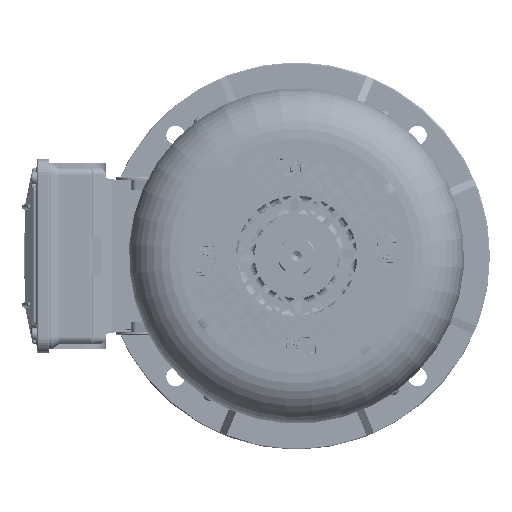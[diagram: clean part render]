
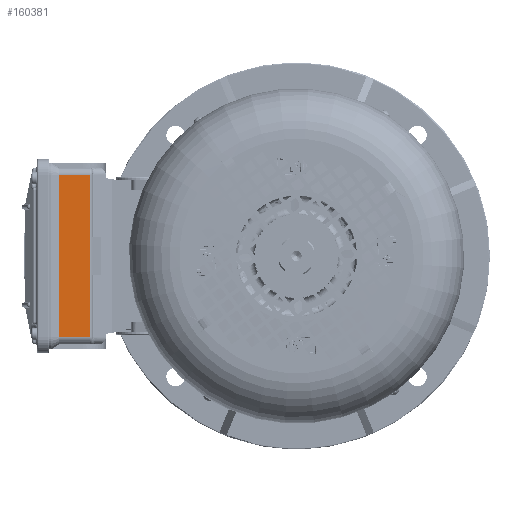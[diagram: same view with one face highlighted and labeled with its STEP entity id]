
A CAD part, left-side view. The second image highlights one B-rep face of the part: STEP entity #160381.
In plain terms, the highlighted planar face has unit normal (-1, 0, 0) as drawn and (1, 0, 0) by its records, which use the part's own axes.
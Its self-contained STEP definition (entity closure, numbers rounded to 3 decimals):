
#573 = DIRECTION ( 'NONE',  ( 0., 1., 0. ) ) ;
#10339 = VECTOR ( 'NONE', #173887, 1000. ) ;
#12919 = VECTOR ( 'NONE', #573, 1000. ) ;
#15277 = VERTEX_POINT ( 'NONE', #151343 ) ;
#17574 = LINE ( 'NONE', #147212, #12919 ) ;
#17821 = CARTESIAN_POINT ( 'NONE',  ( 92.5, -282.704, 62.5 ) ) ;
#24136 = PLANE ( 'NONE',  #31468 ) ;
#31468 = AXIS2_PLACEMENT_3D ( 'NONE', #126946, #54360, #157181 ) ;
#44532 = EDGE_CURVE ( 'NONE', #15277, #113879, #107166, .T. ) ;
#54360 = DIRECTION ( 'NONE',  ( -1., 0., 0. ) ) ;
#57579 = DIRECTION ( 'NONE',  ( 0., 1., 0. ) ) ;
#64642 = VERTEX_POINT ( 'NONE', #179410 ) ;
#67998 = VECTOR ( 'NONE', #108099, 1000. ) ;
#77269 = CARTESIAN_POINT ( 'NONE',  ( 92.5, -11.7, 62.5 ) ) ;
#77486 = CARTESIAN_POINT ( 'NONE',  ( 92.5, -35.5, -62.5 ) ) ;
#81855 = ORIENTED_EDGE ( 'NONE', *, *, #44532, .T. ) ;
#88695 = LINE ( 'NONE', #188729, #10339 ) ;
#100262 = EDGE_CURVE ( 'NONE', #15277, #157845, #168687, .T. ) ;
#107166 = LINE ( 'NONE', #166543, #67998 ) ;
#108099 = DIRECTION ( 'NONE',  ( 0., 0., -1. ) ) ;
#109959 = FACE_OUTER_BOUND ( 'NONE', #170386, .T. ) ;
#113879 = VERTEX_POINT ( 'NONE', #77486 ) ;
#114931 = EDGE_CURVE ( 'NONE', #113879, #64642, #17574, .T. ) ;
#126946 = CARTESIAN_POINT ( 'NONE',  ( 92.5, -282.704, -62.5 ) ) ;
#129545 = VECTOR ( 'NONE', #57579, 1000. ) ;
#138899 = ORIENTED_EDGE ( 'NONE', *, *, #148205, .T. ) ;
#147212 = CARTESIAN_POINT ( 'NONE',  ( 92.5, -282.704, -62.5 ) ) ;
#148205 = EDGE_CURVE ( 'NONE', #64642, #157845, #88695, .T. ) ;
#151343 = CARTESIAN_POINT ( 'NONE',  ( 92.5, -35.5, 62.5 ) ) ;
#157181 = DIRECTION ( 'NONE',  ( 0., 0., 1. ) ) ;
#157845 = VERTEX_POINT ( 'NONE', #77269 ) ;
#160381 = ADVANCED_FACE ( 'NONE', ( #109959 ), #24136, .F. ) ;
#165998 = ORIENTED_EDGE ( 'NONE', *, *, #100262, .F. ) ;
#166543 = CARTESIAN_POINT ( 'NONE',  ( 92.5, -35.5, -62.5 ) ) ;
#168687 = LINE ( 'NONE', #17821, #129545 ) ;
#170386 = EDGE_LOOP ( 'NONE', ( #165998, #81855, #170651, #138899 ) ) ;
#170651 = ORIENTED_EDGE ( 'NONE', *, *, #114931, .T. ) ;
#173887 = DIRECTION ( 'NONE',  ( 0., 0., 1. ) ) ;
#179410 = CARTESIAN_POINT ( 'NONE',  ( 92.5, -11.7, -62.5 ) ) ;
#188729 = CARTESIAN_POINT ( 'NONE',  ( 92.5, -11.7, -62.5 ) ) ;
